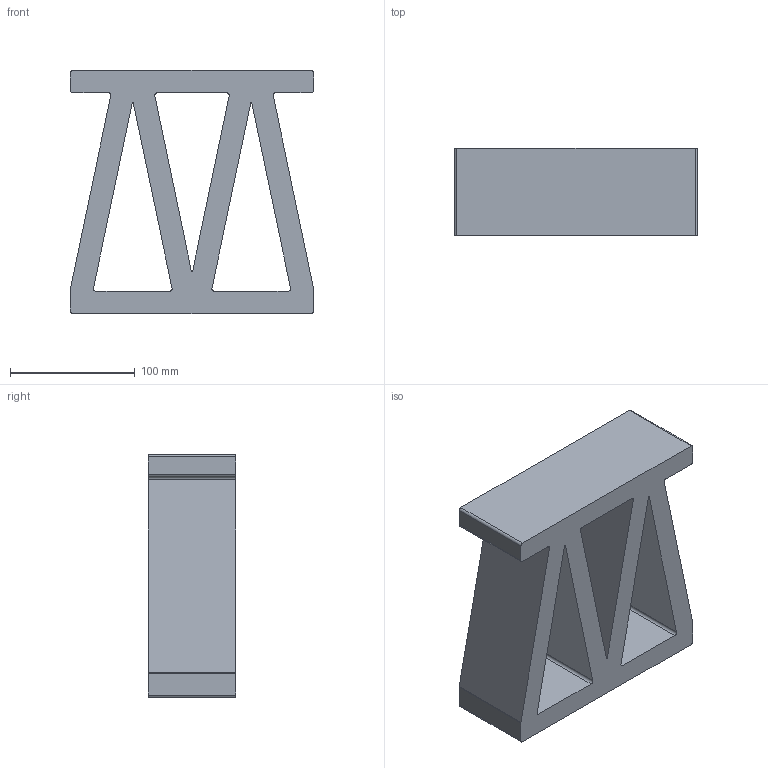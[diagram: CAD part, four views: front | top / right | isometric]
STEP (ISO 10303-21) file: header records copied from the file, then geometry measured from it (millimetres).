
FILE_DESCRIPTION(/* description */ (''),/* implementation_level */ '2;1');
FILE_NAME(/* name */ 'Montgri_Ferres_3D',/* time_stamp */ '2022-07-11T13:49:13+02:00',/* author */ (''),/* organization */ (''),/* preprocessor_version */ 'ST-DEVELOPER v16.5',/* originating_system */ '',/* authorisation */ '');
FILE_SCHEMA (('CONFIG_CONTROL_DESIGN'));
Length unit declared in the file: millimetre
Products named in the file (1): Document
Bounding box: 195 x 70 x 195 mm (x, y, z)
Volume: 1306761.7 mm3; surface area: 172910.6 mm2
Topology: 1 solids, 1 shells, 40 faces, 114 edges, 76 vertices
Faces by surface type: plane 21, cylinder 19
Entity records: 1236 total; most frequent: CARTESIAN_POINT 474, ORIENTED_EDGE 228, EDGE_CURVE 114, VERTEX_POINT 76, EDGE_LOOP 46, DIRECTION 44, AXIS2_PLACEMENT_3D 42, ADVANCED_FACE 40
